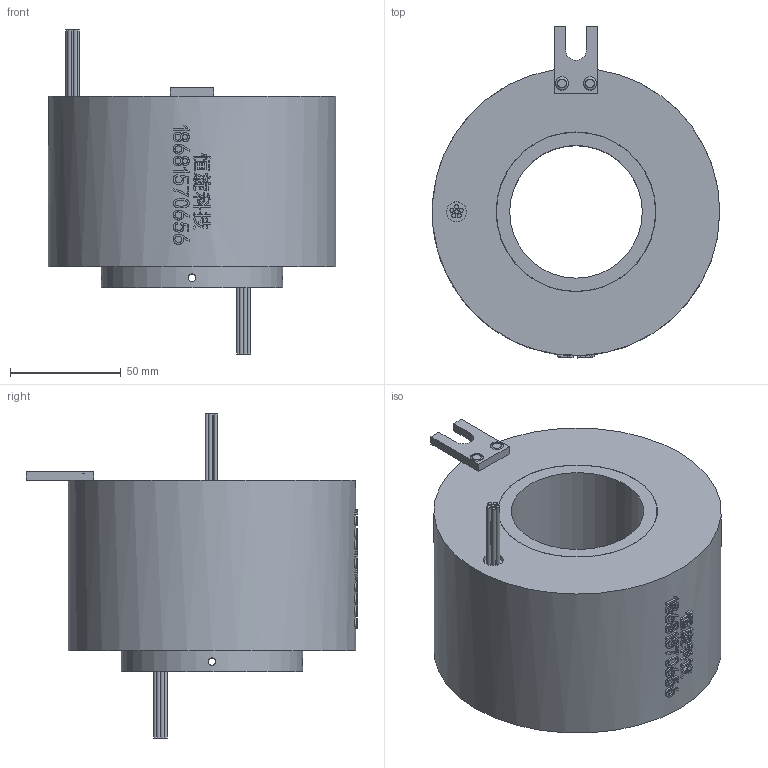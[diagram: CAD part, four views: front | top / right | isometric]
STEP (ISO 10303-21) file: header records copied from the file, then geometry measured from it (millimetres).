
FILE_DESCRIPTION(/* description */ (''),/* implementation_level */ '2;1');
FILE_NAME(/* name */ 'HDF60130-0610.stp',/* time_stamp */ '2024-07-15T08:43:24+08:00',/* author */ (''),/* organization */ (''),/* preprocessor_version */ 'ST-DEVELOPER v16.7',/* originating_system */ 'SIEMENS PLM Software NX 12.0',/* authorisation */ '');
FILE_SCHEMA (('AUTOMOTIVE_DESIGN { 1 0 10303 214 3 1 1 1 }'));
Length unit declared in the file: millimetre
Products named in the file (1): 86131C20986Fn24c
Bounding box: 130 x 150 x 146.5 mm (x, y, z)
Volume: 829867 mm3; surface area: 79032.5 mm2
Topology: 1 solids, 1 shells, 380 faces, 974 edges, 648 vertices
Faces by surface type: extrusion 157, plane 154, cylinder 40, bspline 27, torus 2
Full cylindrical faces by diameter (mm): 1.8 x12, 3.4 x4, 6 x2, 9 x1, 60 x1, 72 x2, 72.2 x2, 82 x1, 130 x1
Entity records: 17364 total; most frequent: CARTESIAN_POINT 8975, ORIENTED_EDGE 1862, DIRECTION 1211, EDGE_CURVE 931, VERTEX_POINT 641, VECTOR 565, B_SPLINE_CURVE_WITH_KNOTS 554, EDGE_LOOP 486
